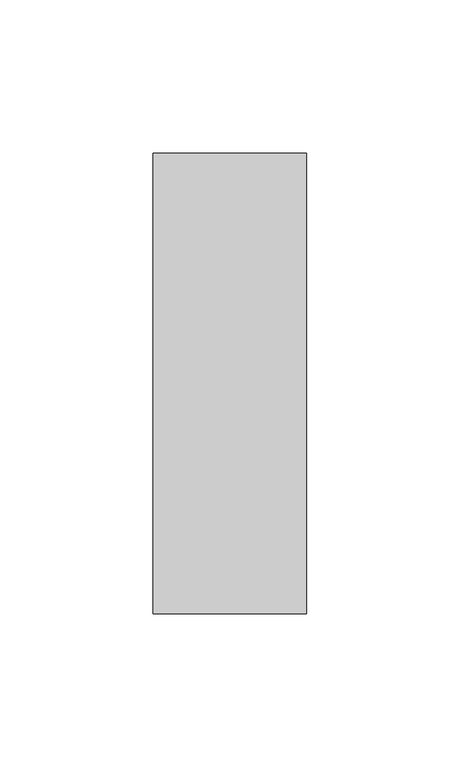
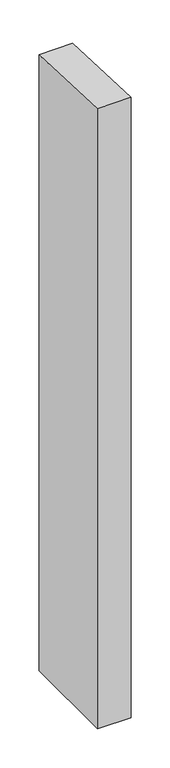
"""IFC4 building model written with IfcOpenShell, lengths in millimetres: member geometry, Прямоугольный импост : 50 x 150 мм."""

from ifc_helpers import new_model, si_unit, origin, place, context, project, spatial, faceted_brep, source, transform, mapped, element, save


def member_30583627(model_context):
    return source(origin(), model_context, "Body", "Brep", [
        faceted_brep([(25.0, 75.0, -966.9597917), (25.0, -75.0, -966.9597917), (-25.0, -75.0, -966.9597917), (-25.0, 75.0, -966.9597917), (-25.0, 75.0, -3.3791023), (25.0, 75.0, -2.9677413), (-25.0, -75.0, 2.9677413), (25.0, -75.0, 3.3791023)], [[[0, 1, 2, 3]], [[4, 5, 0, 3]], [[6, 4, 3, 2]], [[7, 6, 2, 1]], [[5, 7, 1, 0]], [[5, 4, 6, 7]]]),
    ])


if __name__ == "__main__":
    model = new_model("IFC4")
    model_context = context("Model", 3, world=origin())
    ifc_project = project(units=[si_unit("LENGTHUNIT", "METRE", prefix="MILLI")], contexts=[model_context])
    site = spatial("IfcSite", under=ifc_project)
    building = spatial("IfcBuilding", under=site)
    placement = place(None, origin())
    member_shape = member_30583627(model_context)
    element("IfcMember", 1, ObjectType="Прямоугольный импост : 50 x 150 мм", at=placement, inside=building, context=model_context, shape_type="MappedRepresentation", body=[
        mapped(member_shape, transform((0.0, 0.0, 0.0), x_axis=(1.0, 0.0, 0.0), y_axis=(0.0, 1.0, 0.0), z_axis=(0.0, 0.0, 1.0))),
    ])
    save(model, "model.ifc")
